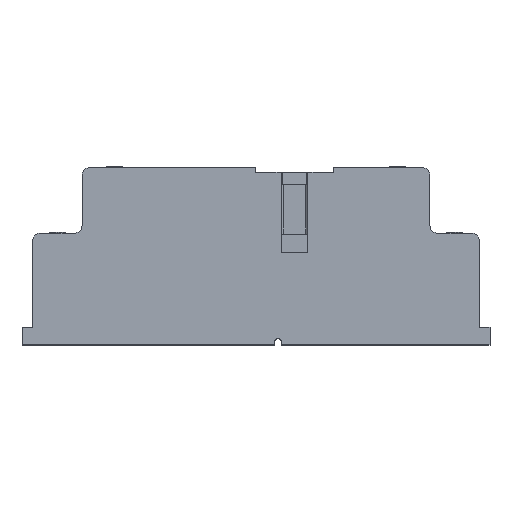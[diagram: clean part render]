
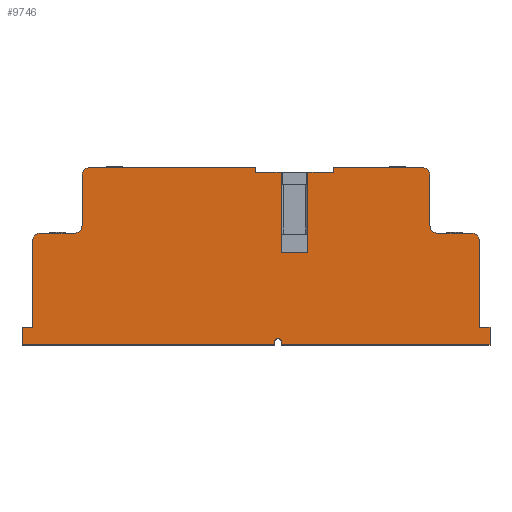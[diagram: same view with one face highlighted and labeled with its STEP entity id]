
A CAD part, top view. The second image highlights one B-rep face of the part: STEP entity #9746.
In plain terms, the highlighted planar face has unit normal (0, 0, 1).
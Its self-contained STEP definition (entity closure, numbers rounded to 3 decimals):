
#7659=CARTESIAN_POINT('',(-21.6,23.0,0.0));
#7660=VERTEX_POINT('',#7659);
#7667=CARTESIAN_POINT('',(-0.1,23.,0.));
#7668=VERTEX_POINT('',#7667);
#7669=CARTESIAN_POINT('',(-21.6,23.0,0.0));
#7670=DIRECTION('',(1.0,0.0,0.0));
#7671=VECTOR('',#7670,21.5);
#7672=LINE('',#7669,#7671);
#7673=EDGE_CURVE('',#7660,#7668,#7672,.T.);
#9238=CARTESIAN_POINT('',(10.1,23.,0.0));
#9239=VERTEX_POINT('',#9238);
#9246=CARTESIAN_POINT('',(21.6,23.,0.0));
#9247=VERTEX_POINT('',#9246);
#9248=CARTESIAN_POINT('',(10.1,23.,0.0));
#9249=DIRECTION('',(1.0,0.0,0.0));
#9250=VECTOR('',#9249,11.5);
#9251=LINE('',#9248,#9250);
#9252=EDGE_CURVE('',#9239,#9247,#9251,.T.);
#9381=CARTESIAN_POINT('',(2.4,0.35,0.0));
#9382=VERTEX_POINT('',#9381);
#9389=CARTESIAN_POINT('',(2.4,0.,0.0));
#9390=VERTEX_POINT('',#9389);
#9391=CARTESIAN_POINT('',(2.4,0.,0.0));
#9392=DIRECTION('',(0.0,1.0,0.0));
#9393=VECTOR('',#9392,0.35);
#9394=LINE('',#9391,#9393);
#9395=EDGE_CURVE('',#9390,#9382,#9394,.T.);
#9421=CARTESIAN_POINT('',(3.3,0.,0.0));
#9422=VERTEX_POINT('',#9421);
#9429=CARTESIAN_POINT('',(3.3,0.35,0.0));
#9430=VERTEX_POINT('',#9429);
#9431=CARTESIAN_POINT('',(3.3,0.35,0.0));
#9432=DIRECTION('',(0.0,-1.0,0.0));
#9433=VECTOR('',#9432,0.35);
#9434=LINE('',#9431,#9433);
#9435=EDGE_CURVE('',#9430,#9422,#9434,.T.);
#9499=CARTESIAN_POINT('',(2.85,0.35,0.0));
#9500=DIRECTION('',(0.0,0.0,-1.0));
#9501=DIRECTION('',(1.0,0.0,0.0));
#9502=AXIS2_PLACEMENT_3D('',#9499,#9500,#9501);
#9503=CIRCLE('',#9502,0.45);
#9504=EDGE_CURVE('',#9382,#9430,#9503,.T.);
#9534=CARTESIAN_POINT('',(0.,10.505,0.0));
#9535=DIRECTION('',(0.0,0.0,1.0));
#9536=DIRECTION('',(1.0,0.0,0.0));
#9537=AXIS2_PLACEMENT_3D('',#9534,#9535,#9536);
#9538=PLANE('',#9537);
#9539=ORIENTED_EDGE('',*,*,#9395,.T.);
#9540=ORIENTED_EDGE('',*,*,#9504,.T.);
#9541=ORIENTED_EDGE('',*,*,#9435,.T.);
#9542=CARTESIAN_POINT('',(30.4,0.,0.0));
#9543=VERTEX_POINT('',#9542);
#9544=CARTESIAN_POINT('',(30.4,0.,0.0));
#9545=DIRECTION('',(-1.0,0.0,0.0));
#9546=VECTOR('',#9545,27.1);
#9547=LINE('',#9544,#9546);
#9548=EDGE_CURVE('',#9543,#9422,#9547,.T.);
#9549=ORIENTED_EDGE('',*,*,#9548,.F.);
#9550=CARTESIAN_POINT('',(30.4,2.3,0.0));
#9551=VERTEX_POINT('',#9550);
#9552=CARTESIAN_POINT('',(30.4,2.3,0.0));
#9553=DIRECTION('',(0.0,-1.0,0.0));
#9554=VECTOR('',#9553,2.3);
#9555=LINE('',#9552,#9554);
#9556=EDGE_CURVE('',#9551,#9543,#9555,.T.);
#9557=ORIENTED_EDGE('',*,*,#9556,.F.);
#9558=CARTESIAN_POINT('',(29.,2.3,0.0));
#9559=VERTEX_POINT('',#9558);
#9560=CARTESIAN_POINT('',(29.,2.3,0.0));
#9561=DIRECTION('',(1.0,0.0,0.0));
#9562=VECTOR('',#9561,1.4);
#9563=LINE('',#9560,#9562);
#9564=EDGE_CURVE('',#9559,#9551,#9563,.T.);
#9565=ORIENTED_EDGE('',*,*,#9564,.F.);
#9566=CARTESIAN_POINT('',(29.,13.5,0.0));
#9567=VERTEX_POINT('',#9566);
#9568=CARTESIAN_POINT('',(29.,13.5,0.0));
#9569=DIRECTION('',(0.0,-1.0,0.0));
#9570=VECTOR('',#9569,11.2);
#9571=LINE('',#9568,#9570);
#9572=EDGE_CURVE('',#9567,#9559,#9571,.T.);
#9573=ORIENTED_EDGE('',*,*,#9572,.F.);
#9574=CARTESIAN_POINT('',(28.,14.5,0.0));
#9575=VERTEX_POINT('',#9574);
#9576=CARTESIAN_POINT('',(28.,13.5,0.0));
#9577=DIRECTION('',(0.0,0.0,-1.0));
#9578=DIRECTION('',(0.707,0.707,0.0));
#9579=AXIS2_PLACEMENT_3D('',#9576,#9577,#9578);
#9580=CIRCLE('',#9579,1.0);
#9581=EDGE_CURVE('',#9575,#9567,#9580,.T.);
#9582=ORIENTED_EDGE('',*,*,#9581,.F.);
#9583=CARTESIAN_POINT('',(23.6,14.5,0.0));
#9584=VERTEX_POINT('',#9583);
#9585=CARTESIAN_POINT('',(23.6,14.5,0.0));
#9586=DIRECTION('',(1.0,0.0,0.0));
#9587=VECTOR('',#9586,4.4);
#9588=LINE('',#9585,#9587);
#9589=EDGE_CURVE('',#9584,#9575,#9588,.T.);
#9590=ORIENTED_EDGE('',*,*,#9589,.F.);
#9591=CARTESIAN_POINT('',(22.6,15.5,0.0));
#9592=VERTEX_POINT('',#9591);
#9593=CARTESIAN_POINT('',(23.6,15.5,0.0));
#9594=DIRECTION('',(0.0,0.0,1.0));
#9595=DIRECTION('',(-0.707,-0.707,0.0));
#9596=AXIS2_PLACEMENT_3D('',#9593,#9594,#9595);
#9597=CIRCLE('',#9596,1.0);
#9598=EDGE_CURVE('',#9592,#9584,#9597,.T.);
#9599=ORIENTED_EDGE('',*,*,#9598,.F.);
#9600=CARTESIAN_POINT('',(22.6,22.,0.0));
#9601=VERTEX_POINT('',#9600);
#9602=CARTESIAN_POINT('',(22.6,22.,0.0));
#9603=DIRECTION('',(0.0,-1.0,0.0));
#9604=VECTOR('',#9603,6.5);
#9605=LINE('',#9602,#9604);
#9606=EDGE_CURVE('',#9601,#9592,#9605,.T.);
#9607=ORIENTED_EDGE('',*,*,#9606,.F.);
#9608=CARTESIAN_POINT('',(21.6,22.,0.0));
#9609=DIRECTION('',(0.0,0.0,-1.0));
#9610=DIRECTION('',(0.707,0.707,0.0));
#9611=AXIS2_PLACEMENT_3D('',#9608,#9609,#9610);
#9612=CIRCLE('',#9611,1.0);
#9613=EDGE_CURVE('',#9247,#9601,#9612,.T.);
#9614=ORIENTED_EDGE('',*,*,#9613,.F.);
#9615=ORIENTED_EDGE('',*,*,#9252,.F.);
#9616=CARTESIAN_POINT('',(10.1,22.4,0.0));
#9617=VERTEX_POINT('',#9616);
#9618=CARTESIAN_POINT('',(10.1,23.,0.0));
#9619=DIRECTION('',(0.0,-1.0,0.0));
#9620=VECTOR('',#9619,0.6);
#9621=LINE('',#9618,#9620);
#9622=EDGE_CURVE('',#9239,#9617,#9621,.T.);
#9623=ORIENTED_EDGE('',*,*,#9622,.T.);
#9624=CARTESIAN_POINT('',(6.732,22.4,0.0));
#9625=VERTEX_POINT('',#9624);
#9626=CARTESIAN_POINT('',(10.1,22.4,0.0));
#9627=DIRECTION('',(-1.0,0.0,0.0));
#9628=VECTOR('',#9627,3.368);
#9629=LINE('',#9626,#9628);
#9630=EDGE_CURVE('',#9617,#9625,#9629,.T.);
#9631=ORIENTED_EDGE('',*,*,#9630,.T.);
#9632=CARTESIAN_POINT('',(6.732,12.,0.0));
#9633=VERTEX_POINT('',#9632);
#9634=CARTESIAN_POINT('',(6.732,22.4,0.0));
#9635=DIRECTION('',(0.0,-1.0,0.0));
#9636=VECTOR('',#9635,10.4);
#9637=LINE('',#9634,#9636);
#9638=EDGE_CURVE('',#9625,#9633,#9637,.T.);
#9639=ORIENTED_EDGE('',*,*,#9638,.T.);
#9640=CARTESIAN_POINT('',(3.268,12.,0.0));
#9641=VERTEX_POINT('',#9640);
#9642=CARTESIAN_POINT('',(6.732,12.,0.0));
#9643=DIRECTION('',(-1.0,0.0,0.0));
#9644=VECTOR('',#9643,3.464);
#9645=LINE('',#9642,#9644);
#9646=EDGE_CURVE('',#9633,#9641,#9645,.T.);
#9647=ORIENTED_EDGE('',*,*,#9646,.T.);
#9648=CARTESIAN_POINT('',(3.268,22.4,0.0));
#9649=VERTEX_POINT('',#9648);
#9650=CARTESIAN_POINT('',(3.268,12.,0.0));
#9651=DIRECTION('',(0.0,1.0,0.0));
#9652=VECTOR('',#9651,10.4);
#9653=LINE('',#9650,#9652);
#9654=EDGE_CURVE('',#9641,#9649,#9653,.T.);
#9655=ORIENTED_EDGE('',*,*,#9654,.T.);
#9656=CARTESIAN_POINT('',(-0.1,22.4,0.));
#9657=VERTEX_POINT('',#9656);
#9658=CARTESIAN_POINT('',(3.268,22.4,0.0));
#9659=DIRECTION('',(-1.0,0.0,0.0));
#9660=VECTOR('',#9659,3.368);
#9661=LINE('',#9658,#9660);
#9662=EDGE_CURVE('',#9649,#9657,#9661,.T.);
#9663=ORIENTED_EDGE('',*,*,#9662,.T.);
#9664=CARTESIAN_POINT('',(-0.1,22.4,0.0));
#9665=DIRECTION('',(0.0,1.0,0.0));
#9666=VECTOR('',#9665,0.6);
#9667=LINE('',#9664,#9666);
#9668=EDGE_CURVE('',#9657,#7668,#9667,.T.);
#9669=ORIENTED_EDGE('',*,*,#9668,.T.);
#9670=ORIENTED_EDGE('',*,*,#7673,.F.);
#9671=CARTESIAN_POINT('',(-22.6,22.,0.0));
#9672=VERTEX_POINT('',#9671);
#9673=CARTESIAN_POINT('',(-21.6,22.,0.0));
#9674=DIRECTION('',(0.0,0.0,-1.0));
#9675=DIRECTION('',(-0.707,0.707,0.0));
#9676=AXIS2_PLACEMENT_3D('',#9673,#9674,#9675);
#9677=CIRCLE('',#9676,1.0);
#9678=EDGE_CURVE('',#9672,#7660,#9677,.T.);
#9679=ORIENTED_EDGE('',*,*,#9678,.F.);
#9680=CARTESIAN_POINT('',(-22.6,15.5,0.0));
#9681=VERTEX_POINT('',#9680);
#9682=CARTESIAN_POINT('',(-22.6,15.5,0.0));
#9683=DIRECTION('',(0.0,1.0,0.0));
#9684=VECTOR('',#9683,6.5);
#9685=LINE('',#9682,#9684);
#9686=EDGE_CURVE('',#9681,#9672,#9685,.T.);
#9687=ORIENTED_EDGE('',*,*,#9686,.F.);
#9688=CARTESIAN_POINT('',(-23.6,14.5,0.0));
#9689=VERTEX_POINT('',#9688);
#9690=CARTESIAN_POINT('',(-23.6,15.5,0.0));
#9691=DIRECTION('',(0.0,0.0,1.0));
#9692=DIRECTION('',(0.707,-0.707,0.0));
#9693=AXIS2_PLACEMENT_3D('',#9690,#9691,#9692);
#9694=CIRCLE('',#9693,1.0);
#9695=EDGE_CURVE('',#9689,#9681,#9694,.T.);
#9696=ORIENTED_EDGE('',*,*,#9695,.F.);
#9697=CARTESIAN_POINT('',(-28.,14.5,0.0));
#9698=VERTEX_POINT('',#9697);
#9699=CARTESIAN_POINT('',(-28.,14.5,0.0));
#9700=DIRECTION('',(1.0,0.0,0.0));
#9701=VECTOR('',#9700,4.4);
#9702=LINE('',#9699,#9701);
#9703=EDGE_CURVE('',#9698,#9689,#9702,.T.);
#9704=ORIENTED_EDGE('',*,*,#9703,.F.);
#9705=CARTESIAN_POINT('',(-29.,13.5,0.0));
#9706=VERTEX_POINT('',#9705);
#9707=CARTESIAN_POINT('',(-28.,13.5,0.0));
#9708=DIRECTION('',(0.0,0.0,-1.0));
#9709=DIRECTION('',(-0.707,0.707,0.0));
#9710=AXIS2_PLACEMENT_3D('',#9707,#9708,#9709);
#9711=CIRCLE('',#9710,1.0);
#9712=EDGE_CURVE('',#9706,#9698,#9711,.T.);
#9713=ORIENTED_EDGE('',*,*,#9712,.F.);
#9714=CARTESIAN_POINT('',(-29.,2.3,0.0));
#9715=VERTEX_POINT('',#9714);
#9716=CARTESIAN_POINT('',(-29.,2.3,0.0));
#9717=DIRECTION('',(0.0,1.0,0.0));
#9718=VECTOR('',#9717,11.2);
#9719=LINE('',#9716,#9718);
#9720=EDGE_CURVE('',#9715,#9706,#9719,.T.);
#9721=ORIENTED_EDGE('',*,*,#9720,.F.);
#9722=CARTESIAN_POINT('',(-30.4,2.3,0.0));
#9723=VERTEX_POINT('',#9722);
#9724=CARTESIAN_POINT('',(-30.4,2.3,0.0));
#9725=DIRECTION('',(1.0,0.0,0.0));
#9726=VECTOR('',#9725,1.4);
#9727=LINE('',#9724,#9726);
#9728=EDGE_CURVE('',#9723,#9715,#9727,.T.);
#9729=ORIENTED_EDGE('',*,*,#9728,.F.);
#9730=CARTESIAN_POINT('',(-30.4,0.,0.0));
#9731=VERTEX_POINT('',#9730);
#9732=CARTESIAN_POINT('',(-30.4,0.,0.0));
#9733=DIRECTION('',(0.0,1.0,0.0));
#9734=VECTOR('',#9733,2.3);
#9735=LINE('',#9732,#9734);
#9736=EDGE_CURVE('',#9731,#9723,#9735,.T.);
#9737=ORIENTED_EDGE('',*,*,#9736,.F.);
#9738=CARTESIAN_POINT('',(2.4,0.,0.0));
#9739=DIRECTION('',(-1.0,0.0,0.0));
#9740=VECTOR('',#9739,32.8);
#9741=LINE('',#9738,#9740);
#9742=EDGE_CURVE('',#9390,#9731,#9741,.T.);
#9743=ORIENTED_EDGE('',*,*,#9742,.F.);
#9744=EDGE_LOOP('',(#9539,#9540,#9541,#9549,#9557,#9565,#9573,#9582,#9590,#9599,#9607,#9614,#9615,#9623,#9631,#9639,#9647,#9655,#9663,#9669,#9670,#9679,#9687,#9696,#9704,#9713,#9721,#9729,#9737,#9743));
#9745=FACE_OUTER_BOUND('',#9744,.T.);
#9746=ADVANCED_FACE('',(#9745),#9538,.T.);
